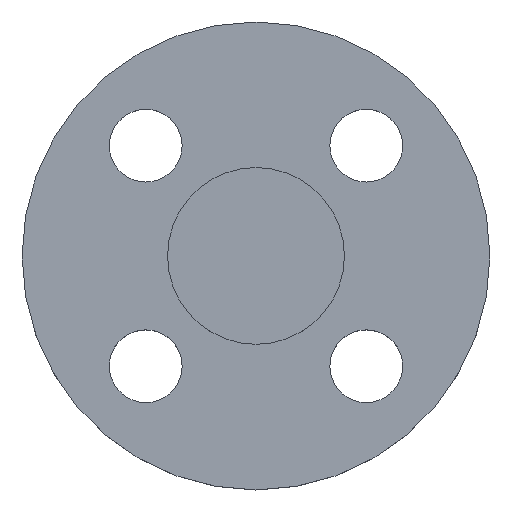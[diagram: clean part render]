
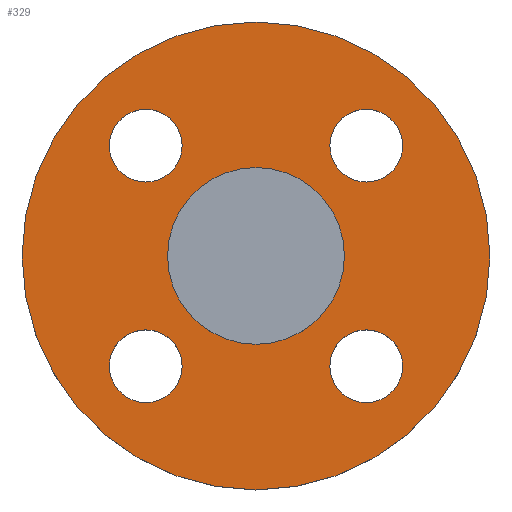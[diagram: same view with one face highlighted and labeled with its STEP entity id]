
A CAD part, top view. The second image highlights one B-rep face of the part: STEP entity #329.
In plain terms, the highlighted planar face has unit normal (0, 0, 1).
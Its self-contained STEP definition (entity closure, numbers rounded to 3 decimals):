
#2 = AXIS2_PLACEMENT_3D ( 'NONE', #340, #341, #342 ) ;
#5 = CIRCLE ( 'NONE', #12, 7. ) ;
#7 = CIRCLE ( 'NONE', #424, 7. ) ;
#9 = AXIS2_PLACEMENT_3D ( 'NONE', #466, #468, #469 ) ;
#12 = AXIS2_PLACEMENT_3D ( 'NONE', #359, #360, #362 ) ;
#21 = EDGE_CURVE ( 'NONE', #249, #227, #79, .T. ) ;
#25 = CIRCLE ( 'NONE', #215, 7. ) ;
#26 = AXIS2_PLACEMENT_3D ( 'NONE', #479, #480, #481 ) ;
#39 = CIRCLE ( 'NONE', #2, 7. ) ;
#41 = AXIS2_PLACEMENT_3D ( 'NONE', #406, #407, #408 ) ;
#45 = AXIS2_PLACEMENT_3D ( 'NONE', #431, #432, #433 ) ;
#63 = CIRCLE ( 'NONE', #65, 45. ) ;
#65 = AXIS2_PLACEMENT_3D ( 'NONE', #391, #392, #393 ) ;
#75 = EDGE_CURVE ( 'NONE', #268, #246, #25, .T. ) ;
#79 = CIRCLE ( 'NONE', #160, 7. ) ;
#83 = EDGE_CURVE ( 'NONE', #271, #162, #39, .T. ) ;
#88 = AXIS2_PLACEMENT_3D ( 'NONE', #356, #357, #358 ) ;
#97 = EDGE_CURVE ( 'NONE', #252, #257, #467, .T. ) ;
#101 = AXIS2_PLACEMENT_3D ( 'NONE', #482, #483, #484 ) ;
#110 = EDGE_CURVE ( 'NONE', #227, #249, #5, .T. ) ;
#119 = AXIS2_PLACEMENT_3D ( 'NONE', #399, #400, #401 ) ;
#136 = EDGE_CURVE ( 'NONE', #257, #252, #63, .T. ) ;
#142 = EDGE_CURVE ( 'NONE', #162, #271, #350, .T. ) ;
#144 = VERTEX_POINT ( 'NONE', #402 ) ;
#145 = EDGE_LOOP ( 'NONE', ( #195, #196 ) ) ;
#147 = VERTEX_POINT ( 'NONE', #405 ) ;
#148 = EDGE_CURVE ( 'NONE', #144, #258, #495, .T. ) ;
#151 = VERTEX_POINT ( 'NONE', #419 ) ;
#160 = AXIS2_PLACEMENT_3D ( 'NONE', #275, #276, #277 ) ;
#162 = VERTEX_POINT ( 'NONE', #420 ) ;
#179 = EDGE_LOOP ( 'NONE', ( #206, #207 ) ) ;
#181 = EDGE_CURVE ( 'NONE', #151, #147, #248, .T. ) ;
#195 = ORIENTED_EDGE ( 'NONE', *, *, #21, .T. ) ;
#196 = ORIENTED_EDGE ( 'NONE', *, *, #110, .T. ) ;
#197 = ORIENTED_EDGE ( 'NONE', *, *, #361, .T. ) ;
#201 = ORIENTED_EDGE ( 'NONE', *, *, #75, .T. ) ;
#202 = ORIENTED_EDGE ( 'NONE', *, *, #83, .T. ) ;
#203 = ORIENTED_EDGE ( 'NONE', *, *, #142, .T. ) ;
#204 = ORIENTED_EDGE ( 'NONE', *, *, #181, .T. ) ;
#205 = ORIENTED_EDGE ( 'NONE', *, *, #369, .T. ) ;
#206 = ORIENTED_EDGE ( 'NONE', *, *, #148, .T. ) ;
#207 = ORIENTED_EDGE ( 'NONE', *, *, #311, .T. ) ;
#208 = ORIENTED_EDGE ( 'NONE', *, *, #97, .F. ) ;
#209 = ORIENTED_EDGE ( 'NONE', *, *, #136, .F. ) ;
#215 = AXIS2_PLACEMENT_3D ( 'NONE', #334, #335, #336 ) ;
#224 = EDGE_LOOP ( 'NONE', ( #202, #203 ) ) ;
#227 = VERTEX_POINT ( 'NONE', #441 ) ;
#233 = EDGE_LOOP ( 'NONE', ( #197, #201 ) ) ;
#245 = EDGE_LOOP ( 'NONE', ( #208, #209 ) ) ;
#246 = VERTEX_POINT ( 'NONE', #449 ) ;
#248 = CIRCLE ( 'NONE', #45, 7. ) ;
#249 = VERTEX_POINT ( 'NONE', #451 ) ;
#252 = VERTEX_POINT ( 'NONE', #453 ) ;
#257 = VERTEX_POINT ( 'NONE', #457 ) ;
#258 = VERTEX_POINT ( 'NONE', #458 ) ;
#263 = EDGE_LOOP ( 'NONE', ( #204, #205 ) ) ;
#268 = VERTEX_POINT ( 'NONE', #460 ) ;
#271 = VERTEX_POINT ( 'NONE', #465 ) ;
#275 = CARTESIAN_POINT ( 'NONE',  ( 21.213, -21.213, -4.5 ) ) ;
#276 = DIRECTION ( 'NONE',  ( 0., 0., -1. ) ) ;
#277 = DIRECTION ( 'NONE',  ( 1., 0., 0. ) ) ;
#311 = EDGE_CURVE ( 'NONE', #258, #144, #446, .T. ) ;
#329 = ADVANCED_FACE ( 'NONE', ( #470, #471, #472, #473, #474, #475 ), #476, .T. ) ;
#334 = CARTESIAN_POINT ( 'NONE',  ( -21.213, -21.213, -4.5 ) ) ;
#335 = DIRECTION ( 'NONE',  ( 0., 0., -1. ) ) ;
#336 = DIRECTION ( 'NONE',  ( 1., 0., 0. ) ) ;
#340 = CARTESIAN_POINT ( 'NONE',  ( -21.213, 21.213, -4.5 ) ) ;
#341 = DIRECTION ( 'NONE',  ( 0., 0., -1. ) ) ;
#342 = DIRECTION ( 'NONE',  ( 1., 0., 0. ) ) ;
#350 = CIRCLE ( 'NONE', #119, 7. ) ;
#356 = CARTESIAN_POINT ( 'NONE',  ( 0., 0., -4.5 ) ) ;
#357 = DIRECTION ( 'NONE',  ( 0., 0., -1. ) ) ;
#358 = DIRECTION ( 'NONE',  ( -1., 0., 0. ) ) ;
#359 = CARTESIAN_POINT ( 'NONE',  ( 21.213, -21.213, -4.5 ) ) ;
#360 = DIRECTION ( 'NONE',  ( 0., 0., -1. ) ) ;
#361 = EDGE_CURVE ( 'NONE', #246, #268, #478, .T. ) ;
#362 = DIRECTION ( 'NONE',  ( 1., 0., 0. ) ) ;
#369 = EDGE_CURVE ( 'NONE', #147, #151, #7, .T. ) ;
#391 = CARTESIAN_POINT ( 'NONE',  ( 0., 0., -4.5 ) ) ;
#392 = DIRECTION ( 'NONE',  ( 0., 0., -1. ) ) ;
#393 = DIRECTION ( 'NONE',  ( -1., 0., 0. ) ) ;
#399 = CARTESIAN_POINT ( 'NONE',  ( -21.213, 21.213, -4.5 ) ) ;
#400 = DIRECTION ( 'NONE',  ( 0., 0., -1. ) ) ;
#401 = DIRECTION ( 'NONE',  ( 1., 0., 0. ) ) ;
#402 = CARTESIAN_POINT ( 'NONE',  ( -17., 0., -4.5 ) ) ;
#405 = CARTESIAN_POINT ( 'NONE',  ( 14.213, 21.213, -4.5 ) ) ;
#406 = CARTESIAN_POINT ( 'NONE',  ( 0., 0., -4.5 ) ) ;
#407 = DIRECTION ( 'NONE',  ( 0., 0., -1. ) ) ;
#408 = DIRECTION ( 'NONE',  ( -1., 0., 0. ) ) ;
#419 = CARTESIAN_POINT ( 'NONE',  ( 28.213, 21.213, -4.5 ) ) ;
#420 = CARTESIAN_POINT ( 'NONE',  ( -28.213, 21.213, -4.5 ) ) ;
#424 = AXIS2_PLACEMENT_3D ( 'NONE', #486, #487, #488 ) ;
#431 = CARTESIAN_POINT ( 'NONE',  ( 21.213, 21.213, -4.5 ) ) ;
#432 = DIRECTION ( 'NONE',  ( 0., 0., -1. ) ) ;
#433 = DIRECTION ( 'NONE',  ( 1., 0., 0. ) ) ;
#441 = CARTESIAN_POINT ( 'NONE',  ( 14.213, -21.213, -4.5 ) ) ;
#446 = CIRCLE ( 'NONE', #9, 17. ) ;
#449 = CARTESIAN_POINT ( 'NONE',  ( -14.213, -21.213, -4.5 ) ) ;
#451 = CARTESIAN_POINT ( 'NONE',  ( 28.213, -21.213, -4.5 ) ) ;
#453 = CARTESIAN_POINT ( 'NONE',  ( 45., 0., -4.5 ) ) ;
#457 = CARTESIAN_POINT ( 'NONE',  ( -45., 0., -4.5 ) ) ;
#458 = CARTESIAN_POINT ( 'NONE',  ( 17., 0., -4.5 ) ) ;
#460 = CARTESIAN_POINT ( 'NONE',  ( -28.213, -21.213, -4.5 ) ) ;
#465 = CARTESIAN_POINT ( 'NONE',  ( -14.213, 21.213, -4.5 ) ) ;
#466 = CARTESIAN_POINT ( 'NONE',  ( 0., 0., -4.5 ) ) ;
#467 = CIRCLE ( 'NONE', #88, 45. ) ;
#468 = DIRECTION ( 'NONE',  ( 0., 0., -1. ) ) ;
#469 = DIRECTION ( 'NONE',  ( -1., 0., 0. ) ) ;
#470 = FACE_BOUND ( 'NONE', #145, .T. ) ;
#471 = FACE_BOUND ( 'NONE', #233, .T. ) ;
#472 = FACE_BOUND ( 'NONE', #224, .T. ) ;
#473 = FACE_BOUND ( 'NONE', #263, .T. ) ;
#474 = FACE_BOUND ( 'NONE', #179, .T. ) ;
#475 = FACE_OUTER_BOUND ( 'NONE', #245, .T. ) ;
#476 = PLANE ( 'NONE',  #26 ) ;
#478 = CIRCLE ( 'NONE', #101, 7. ) ;
#479 = CARTESIAN_POINT ( 'NONE',  ( 17., 0., -4.5 ) ) ;
#480 = DIRECTION ( 'NONE',  ( 0., 0., 1. ) ) ;
#481 = DIRECTION ( 'NONE',  ( 1., 0., 0. ) ) ;
#482 = CARTESIAN_POINT ( 'NONE',  ( -21.213, -21.213, -4.5 ) ) ;
#483 = DIRECTION ( 'NONE',  ( 0., 0., -1. ) ) ;
#484 = DIRECTION ( 'NONE',  ( 1., 0., 0. ) ) ;
#486 = CARTESIAN_POINT ( 'NONE',  ( 21.213, 21.213, -4.5 ) ) ;
#487 = DIRECTION ( 'NONE',  ( 0., 0., -1. ) ) ;
#488 = DIRECTION ( 'NONE',  ( 1., 0., 0. ) ) ;
#495 = CIRCLE ( 'NONE', #41, 17. ) ;
